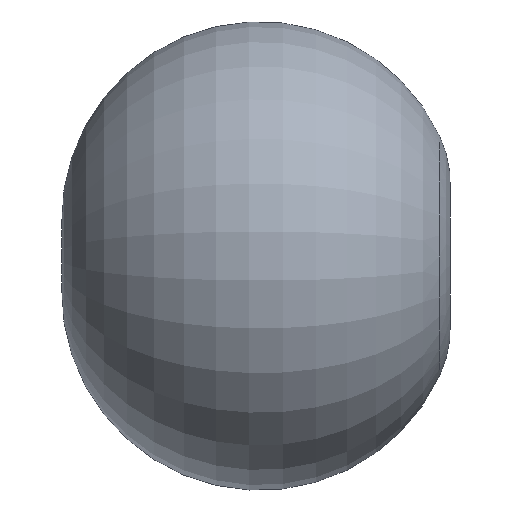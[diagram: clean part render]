
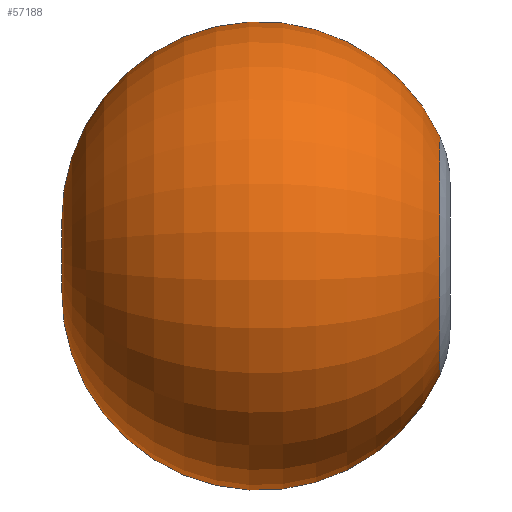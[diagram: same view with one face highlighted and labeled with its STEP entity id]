
A CAD part, left-side view. The second image highlights one B-rep face of the part: STEP entity #57188.
In plain terms, the highlighted toroidal (fillet/blend) face has major radius 300 mm and minor radius 1651.23 mm.
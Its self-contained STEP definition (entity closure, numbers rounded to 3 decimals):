
#57104 = VERTEX_POINT ( 'NONE', #79087 ) ;
#57106 = VERTEX_POINT ( 'NONE', #79085 ) ;
#57167 = EDGE_CURVE ( 'NONE', #57173, #57104, #78784, .T. ) ;
#57173 = VERTEX_POINT ( 'NONE', #79404 ) ;
#57180 = EDGE_CURVE ( 'NONE', #57173, #57106, #79531, .T. ) ;
#57188 = ADVANCED_FACE ( 'NONE', ( #79518 ), #79511, .T. ) ;
#57192 = EDGE_LOOP ( 'NONE', ( #57232, #57234, #57240 ) ) ;
#57232 = ORIENTED_EDGE ( 'NONE', *, *, #57180, .F. ) ;
#57234 = ORIENTED_EDGE ( 'NONE', *, *, #57167, .T. ) ;
#57240 = ORIENTED_EDGE ( 'NONE', *, *, #57242, .F. ) ;
#57242 = EDGE_CURVE ( 'NONE', #57106, #57104, #79643, .T. ) ;
#78782 = AXIS2_PLACEMENT_3D ( 'NONE', #78787, #79464, #79462 ) ;
#78784 = CIRCLE ( 'NONE', #78782, 1651.23 ) ;
#78787 = CARTESIAN_POINT ( 'NONE',  ( 0., 600., -300. ) ) ;
#79085 = CARTESIAN_POINT ( 'NONE',  ( 0., -896.523, 997.84 ) ) ;
#79087 = CARTESIAN_POINT ( 'NONE',  ( 0., -896.523, -997.84 ) ) ;
#79400 = CARTESIAN_POINT ( 'NONE',  ( 0., 600., 300. ) ) ;
#79404 = CARTESIAN_POINT ( 'NONE',  ( 0., 2223.749, 0. ) ) ;
#79462 = DIRECTION ( 'NONE',  ( 0., 0., 1. ) ) ;
#79464 = DIRECTION ( 'NONE',  ( -1., 0., 0. ) ) ;
#79507 = DIRECTION ( 'NONE',  ( 0., 0., -1. ) ) ;
#79508 = DIRECTION ( 'NONE',  ( 0., -1., 0. ) ) ;
#79510 = AXIS2_PLACEMENT_3D ( 'NONE', #79517, #79508, #79507 ) ;
#79511 = TOROIDAL_SURFACE ( 'NONE', #79510, 300., 1651.23 ) ;
#79517 = CARTESIAN_POINT ( 'NONE',  ( 0., 600., 0. ) ) ;
#79518 = FACE_OUTER_BOUND ( 'NONE', #57192, .T. ) ;
#79525 = DIRECTION ( 'NONE',  ( 0., 0., -1. ) ) ;
#79527 = DIRECTION ( 'NONE',  ( 1., 0., 0. ) ) ;
#79529 = AXIS2_PLACEMENT_3D ( 'NONE', #79400, #79527, #79525 ) ;
#79531 = CIRCLE ( 'NONE', #79529, 1651.23 ) ;
#79637 = DIRECTION ( 'NONE',  ( 0., 0., -1. ) ) ;
#79639 = DIRECTION ( 'NONE',  ( 0., -1., 0. ) ) ;
#79640 = CARTESIAN_POINT ( 'NONE',  ( 0., -896.523, 0. ) ) ;
#79642 = AXIS2_PLACEMENT_3D ( 'NONE', #79640, #79639, #79637 ) ;
#79643 = CIRCLE ( 'NONE', #79642, 997.84 ) ;
